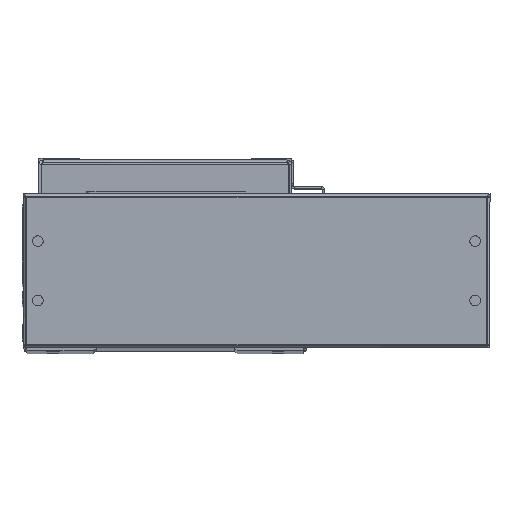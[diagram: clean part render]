
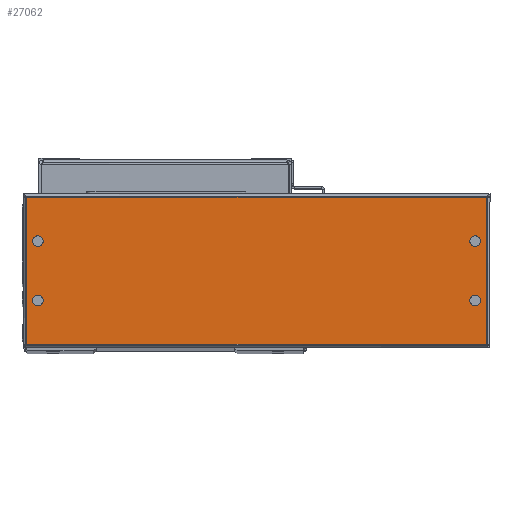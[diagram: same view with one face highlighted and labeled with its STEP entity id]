
A CAD part, top view. The second image highlights one B-rep face of the part: STEP entity #27062.
In plain terms, the highlighted planar face has unit normal (0, 0, 1) as drawn and (0, -1, 0) by its records, which use the part's own axes.
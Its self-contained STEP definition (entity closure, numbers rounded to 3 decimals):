
#488 = CARTESIAN_POINT ( 'NONE',  ( -98., -40., 16.75 ) ) ;
#655 = EDGE_CURVE ( 'NONE', #16448, #2817, #20866, .T. ) ;
#664 = CIRCLE ( 'NONE', #4816, 2.5 ) ;
#763 = FACE_BOUND ( 'NONE', #3447, .T. ) ;
#1263 = FACE_BOUND ( 'NONE', #10117, .T. ) ;
#1498 = CARTESIAN_POINT ( 'NONE',  ( 113.3, -40., -34.3 ) ) ;
#1772 = DIRECTION ( 'NONE',  ( 0., 0., 1. ) ) ;
#1917 = CIRCLE ( 'NONE', #24128, 2.5 ) ;
#2628 = CARTESIAN_POINT ( 'NONE',  ( -103.3, -40., 34.946 ) ) ;
#2729 = CIRCLE ( 'NONE', #29568, 2.5 ) ;
#2768 = CARTESIAN_POINT ( 'NONE',  ( -103.446, -40., -34.3 ) ) ;
#2817 = VERTEX_POINT ( 'NONE', #1498 ) ;
#2833 = ORIENTED_EDGE ( 'NONE', *, *, #6136, .F. ) ;
#3048 = VERTEX_POINT ( 'NONE', #17819 ) ;
#3076 = EDGE_CURVE ( 'NONE', #31079, #21150, #664, .T. ) ;
#3180 = PLANE ( 'NONE',  #4955 ) ;
#3228 = ORIENTED_EDGE ( 'NONE', *, *, #12803, .F. ) ;
#3380 = DIRECTION ( 'NONE',  ( 0., -1., 0. ) ) ;
#3383 = CARTESIAN_POINT ( 'NONE',  ( 108., -40., -13.75 ) ) ;
#3447 = EDGE_LOOP ( 'NONE', ( #24625, #8096 ) ) ;
#3506 = CARTESIAN_POINT ( 'NONE',  ( 108., -40., -16.25 ) ) ;
#3627 = CARTESIAN_POINT ( 'NONE',  ( -98., -40., -16.25 ) ) ;
#4101 = ORIENTED_EDGE ( 'NONE', *, *, #21358, .F. ) ;
#4108 = CARTESIAN_POINT ( 'NONE',  ( -103.3, -40., -34.3 ) ) ;
#4115 = DIRECTION ( 'NONE',  ( 0., -1., 0. ) ) ;
#4816 = AXIS2_PLACEMENT_3D ( 'NONE', #20409, #3380, #23130 ) ;
#4955 = AXIS2_PLACEMENT_3D ( 'NONE', #13400, #30185, #21026 ) ;
#5522 = ORIENTED_EDGE ( 'NONE', *, *, #3076, .F. ) ;
#6136 = EDGE_CURVE ( 'NONE', #31004, #15195, #8039, .T. ) ;
#6298 = DIRECTION ( 'NONE',  ( 0., -1., 0. ) ) ;
#6330 = CARTESIAN_POINT ( 'NONE',  ( 108., -40., 14.25 ) ) ;
#6548 = CARTESIAN_POINT ( 'NONE',  ( 108., -40., 14.25 ) ) ;
#7909 = CARTESIAN_POINT ( 'NONE',  ( 113.446, -40., 34.8 ) ) ;
#8039 = CIRCLE ( 'NONE', #13716, 2.5 ) ;
#8043 = ORIENTED_EDGE ( 'NONE', *, *, #26992, .T. ) ;
#8096 = ORIENTED_EDGE ( 'NONE', *, *, #22066, .F. ) ;
#8909 = EDGE_CURVE ( 'NONE', #26123, #3048, #29480, .T. ) ;
#9354 = CIRCLE ( 'NONE', #16043, 2.5 ) ;
#10117 = EDGE_LOOP ( 'NONE', ( #3228, #5522 ) ) ;
#10658 = FACE_OUTER_BOUND ( 'NONE', #23719, .T. ) ;
#10713 = DIRECTION ( 'NONE',  ( 0., 0., -1. ) ) ;
#10897 = EDGE_LOOP ( 'NONE', ( #31942, #2833 ) ) ;
#11338 = DIRECTION ( 'NONE',  ( 0., 0., -1. ) ) ;
#12132 = VECTOR ( 'NONE', #24922, 1000. ) ;
#12137 = DIRECTION ( 'NONE',  ( -1., 0., 0. ) ) ;
#12697 = AXIS2_PLACEMENT_3D ( 'NONE', #6548, #4115, #28847 ) ;
#12803 = EDGE_CURVE ( 'NONE', #21150, #31079, #2729, .T. ) ;
#13155 = ORIENTED_EDGE ( 'NONE', *, *, #14306, .T. ) ;
#13353 = CARTESIAN_POINT ( 'NONE',  ( 113.3, -40., 34.8 ) ) ;
#13400 = CARTESIAN_POINT ( 'NONE',  ( 5., -40., 0.25 ) ) ;
#13574 = CARTESIAN_POINT ( 'NONE',  ( -98., -40., 14.25 ) ) ;
#13674 = VERTEX_POINT ( 'NONE', #13353 ) ;
#13716 = AXIS2_PLACEMENT_3D ( 'NONE', #3383, #23610, #11338 ) ;
#14306 = EDGE_CURVE ( 'NONE', #25915, #16448, #20594, .T. ) ;
#15015 = EDGE_CURVE ( 'NONE', #2817, #13674, #17001, .T. ) ;
#15195 = VERTEX_POINT ( 'NONE', #3506 ) ;
#15350 = FACE_BOUND ( 'NONE', #10897, .T. ) ;
#15660 = DIRECTION ( 'NONE',  ( 0., -1., 0. ) ) ;
#15833 = DIRECTION ( 'NONE',  ( 1., 0., 0. ) ) ;
#16043 = AXIS2_PLACEMENT_3D ( 'NONE', #20541, #15660, #20054 ) ;
#16342 = DIRECTION ( 'NONE',  ( 0., 0., -1. ) ) ;
#16448 = VERTEX_POINT ( 'NONE', #4108 ) ;
#17001 = LINE ( 'NONE', #26506, #28656 ) ;
#17819 = CARTESIAN_POINT ( 'NONE',  ( 108., -40., 16.75 ) ) ;
#18319 = AXIS2_PLACEMENT_3D ( 'NONE', #13574, #6298, #16342 ) ;
#18411 = DIRECTION ( 'NONE',  ( 0., 0., -1. ) ) ;
#20054 = DIRECTION ( 'NONE',  ( 0., 0., -1. ) ) ;
#20129 = EDGE_CURVE ( 'NONE', #28297, #24940, #30145, .T. ) ;
#20406 = DIRECTION ( 'NONE',  ( 0., -1., 0. ) ) ;
#20409 = CARTESIAN_POINT ( 'NONE',  ( -98., -40., -13.75 ) ) ;
#20414 = CARTESIAN_POINT ( 'NONE',  ( -98., -40., -11.25 ) ) ;
#20541 = CARTESIAN_POINT ( 'NONE',  ( 108., -40., -13.75 ) ) ;
#20594 = LINE ( 'NONE', #2628, #12132 ) ;
#20866 = LINE ( 'NONE', #2768, #28898 ) ;
#21026 = DIRECTION ( 'NONE',  ( 0., 0., -1. ) ) ;
#21150 = VERTEX_POINT ( 'NONE', #3627 ) ;
#21358 = EDGE_CURVE ( 'NONE', #3048, #26123, #22003, .T. ) ;
#22003 = CIRCLE ( 'NONE', #12697, 2.5 ) ;
#22066 = EDGE_CURVE ( 'NONE', #24940, #28297, #1917, .T. ) ;
#22795 = DIRECTION ( 'NONE',  ( 0., 0., -1. ) ) ;
#22844 = CARTESIAN_POINT ( 'NONE',  ( 108., -40., 11.75 ) ) ;
#22963 = CARTESIAN_POINT ( 'NONE',  ( -98., -40., 11.75 ) ) ;
#23130 = DIRECTION ( 'NONE',  ( 0., 0., -1. ) ) ;
#23290 = AXIS2_PLACEMENT_3D ( 'NONE', #6330, #23312, #10713 ) ;
#23312 = DIRECTION ( 'NONE',  ( 0., -1., 0. ) ) ;
#23610 = DIRECTION ( 'NONE',  ( 0., -1., 0. ) ) ;
#23719 = EDGE_LOOP ( 'NONE', ( #8043, #13155, #31433, #31898 ) ) ;
#23969 = CARTESIAN_POINT ( 'NONE',  ( 108., -40., -11.25 ) ) ;
#24128 = AXIS2_PLACEMENT_3D ( 'NONE', #28085, #30331, #18411 ) ;
#24625 = ORIENTED_EDGE ( 'NONE', *, *, #20129, .F. ) ;
#24922 = DIRECTION ( 'NONE',  ( 0., 0., -1. ) ) ;
#24940 = VERTEX_POINT ( 'NONE', #488 ) ;
#25090 = VECTOR ( 'NONE', #12137, 1000. ) ;
#25154 = EDGE_LOOP ( 'NONE', ( #30451, #4101 ) ) ;
#25279 = EDGE_CURVE ( 'NONE', #15195, #31004, #9354, .T. ) ;
#25659 = FACE_BOUND ( 'NONE', #25154, .T. ) ;
#25915 = VERTEX_POINT ( 'NONE', #28704 ) ;
#26123 = VERTEX_POINT ( 'NONE', #22844 ) ;
#26506 = CARTESIAN_POINT ( 'NONE',  ( 113.3, -40., -34.446 ) ) ;
#26992 = EDGE_CURVE ( 'NONE', #13674, #25915, #30027, .T. ) ;
#27062 = ADVANCED_FACE ( 'NONE', ( #25659, #15350, #763, #1263, #10658 ), #3180, .T. ) ;
#27962 = CARTESIAN_POINT ( 'NONE',  ( -98., -40., -13.75 ) ) ;
#28085 = CARTESIAN_POINT ( 'NONE',  ( -98., -40., 14.25 ) ) ;
#28297 = VERTEX_POINT ( 'NONE', #22963 ) ;
#28656 = VECTOR ( 'NONE', #1772, 1000. ) ;
#28704 = CARTESIAN_POINT ( 'NONE',  ( -103.3, -40., 34.8 ) ) ;
#28847 = DIRECTION ( 'NONE',  ( 0., 0., -1. ) ) ;
#28898 = VECTOR ( 'NONE', #15833, 1000. ) ;
#29480 = CIRCLE ( 'NONE', #23290, 2.5 ) ;
#29568 = AXIS2_PLACEMENT_3D ( 'NONE', #27962, #20406, #22795 ) ;
#30027 = LINE ( 'NONE', #7909, #25090 ) ;
#30145 = CIRCLE ( 'NONE', #18319, 2.5 ) ;
#30185 = DIRECTION ( 'NONE',  ( 0., -1., 0. ) ) ;
#30331 = DIRECTION ( 'NONE',  ( 0., -1., 0. ) ) ;
#30451 = ORIENTED_EDGE ( 'NONE', *, *, #8909, .F. ) ;
#31004 = VERTEX_POINT ( 'NONE', #23969 ) ;
#31079 = VERTEX_POINT ( 'NONE', #20414 ) ;
#31433 = ORIENTED_EDGE ( 'NONE', *, *, #655, .T. ) ;
#31898 = ORIENTED_EDGE ( 'NONE', *, *, #15015, .T. ) ;
#31942 = ORIENTED_EDGE ( 'NONE', *, *, #25279, .F. ) ;
